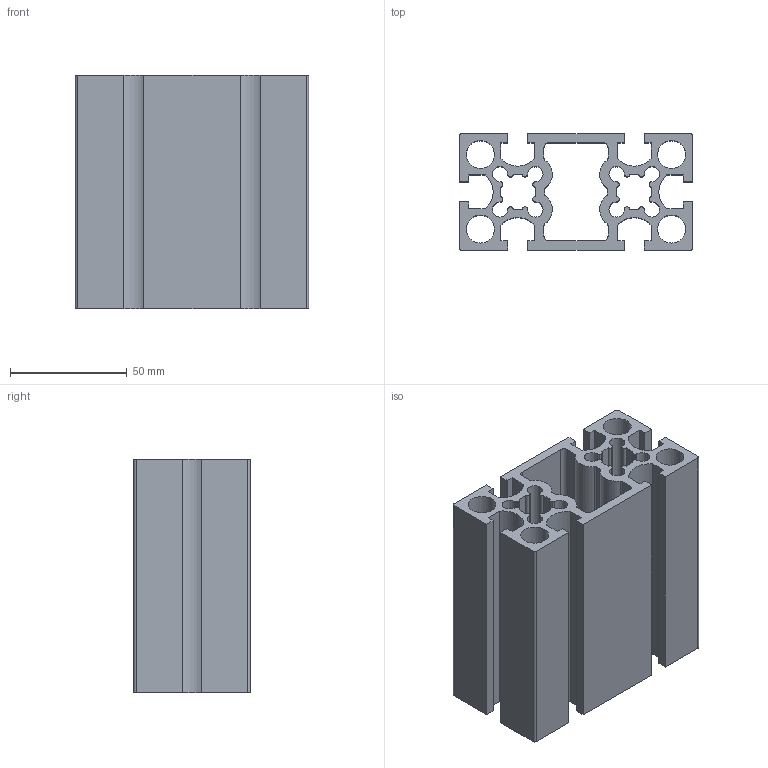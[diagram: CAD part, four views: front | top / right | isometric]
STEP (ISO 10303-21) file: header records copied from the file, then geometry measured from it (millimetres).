
FILE_DESCRIPTION(/* description */ (''),/* implementation_level */ '2;1');
FILE_NAME(/* name */ '\\AM-PUBLIC\Share\3D新型錄-2019整理\01.AM-鋁擠\8系列\AM8-50100_100L.stp',/* time_stamp */ '2020-08-04T08:33:57+08:00',/* author */ ('AM'),/* organization */ (''),/* preprocessor_version */ 'ST-DEVELOPER v16.5',/* originating_system */ 'Autodesk Inventor 2017',/* authorisation */ '');
FILE_SCHEMA (('AUTOMOTIVE_DESIGN { 1 0 10303 214 3 1 1 }'));
Length unit declared in the file: millimetre
Products named in the file (1): 零件5
Bounding box: 100 x 50 x 100 mm (x, y, z)
Volume: 190221 mm3; surface area: 105635.5 mm2
Topology: 1 solids, 1 shells, 182 faces, 540 edges, 360 vertices
Faces by surface type: plane 96, cylinder 86
Full cylindrical faces by diameter (mm): 12 x4
Entity records: 6168 total; most frequent: CARTESIAN_POINT 1079, DIRECTION 1074, ORIENTED_EDGE 1072, EDGE_CURVE 536, LINE 364, VECTOR 364, VERTEX_POINT 360, AXIS2_PLACEMENT_3D 355
